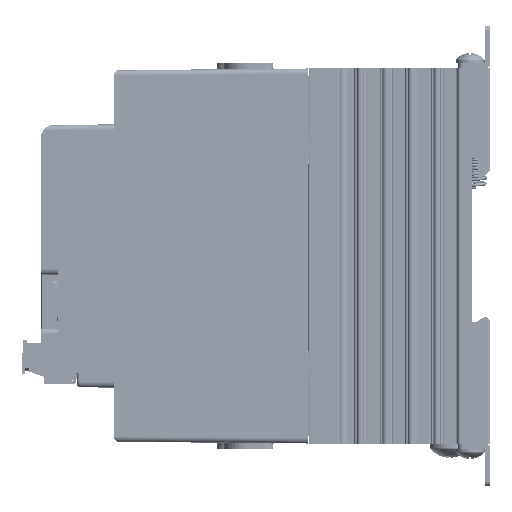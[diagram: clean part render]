
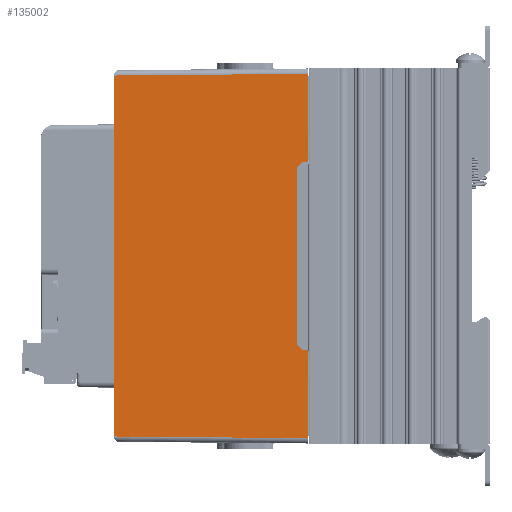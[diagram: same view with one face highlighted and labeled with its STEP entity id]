
A CAD part, left-side view. The second image highlights one B-rep face of the part: STEP entity #135002.
In plain terms, the highlighted planar face has unit normal (-1, 0.009, 0) as drawn and (1, 0, 0.009) by its records, which use the part's own axes.
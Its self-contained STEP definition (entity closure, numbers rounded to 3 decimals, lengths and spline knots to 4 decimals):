
#13829=FACE_OUTER_BOUND('',#21135,.T.);
#21135=EDGE_LOOP('',(#120024,#120025,#120026,#120027,#120028,#120029,#120030,
#120031,#120032,#120033));
#36152=LINE('',#231252,#51720);
#36282=LINE('',#232037,#51850);
#36288=LINE('',#232049,#51856);
#36292=LINE('',#232055,#51860);
#36294=LINE('',#232059,#51862);
#36296=LINE('',#232063,#51864);
#36297=LINE('',#232066,#51865);
#36642=LINE('',#232824,#52210);
#36644=LINE('',#232830,#52212);
#36645=LINE('',#232831,#52213);
#51720=VECTOR('',#177067,0.3937);
#51850=VECTOR('',#177443,0.3937);
#51856=VECTOR('',#177453,0.3937);
#51860=VECTOR('',#177461,0.3937);
#51862=VECTOR('',#177465,0.3937);
#51864=VECTOR('',#177469,0.3937);
#51865=VECTOR('',#177472,0.3937);
#52210=VECTOR('',#178197,0.3937);
#52212=VECTOR('',#178205,0.3937);
#52213=VECTOR('',#178206,0.3937);
#64344=VERTEX_POINT('',#231249);
#64345=VERTEX_POINT('',#231251);
#64448=VERTEX_POINT('',#232034);
#64449=VERTEX_POINT('',#232036);
#64452=VERTEX_POINT('',#232046);
#64453=VERTEX_POINT('',#232048);
#64454=VERTEX_POINT('',#232057);
#64455=VERTEX_POINT('',#232061);
#64456=VERTEX_POINT('',#232065);
#64656=VERTEX_POINT('',#232829);
#82747=EDGE_CURVE('',#64345,#64344,#36152,.T.);
#82935=EDGE_CURVE('',#64449,#64448,#36282,.T.);
#82941=EDGE_CURVE('',#64453,#64452,#36288,.T.);
#82945=EDGE_CURVE('',#64448,#64453,#36292,.T.);
#82947=EDGE_CURVE('',#64452,#64454,#36294,.T.);
#82949=EDGE_CURVE('',#64454,#64455,#36296,.T.);
#82950=EDGE_CURVE('',#64456,#64449,#36297,.T.);
#83316=EDGE_CURVE('',#64456,#64344,#36642,.T.);
#83319=EDGE_CURVE('',#64455,#64656,#36644,.T.);
#83320=EDGE_CURVE('',#64345,#64656,#36645,.T.);
#120024=ORIENTED_EDGE('',*,*,#82949,.T.);
#120025=ORIENTED_EDGE('',*,*,#83319,.T.);
#120026=ORIENTED_EDGE('',*,*,#83320,.F.);
#120027=ORIENTED_EDGE('',*,*,#82747,.T.);
#120028=ORIENTED_EDGE('',*,*,#83316,.F.);
#120029=ORIENTED_EDGE('',*,*,#82950,.T.);
#120030=ORIENTED_EDGE('',*,*,#82935,.T.);
#120031=ORIENTED_EDGE('',*,*,#82945,.T.);
#120032=ORIENTED_EDGE('',*,*,#82941,.T.);
#120033=ORIENTED_EDGE('',*,*,#82947,.T.);
#128351=PLANE('',#144938);
#135002=ADVANCED_FACE('',(#13829),#128351,.T.);
#144938=AXIS2_PLACEMENT_3D('',#232828,#178203,#178204);
#177067=DIRECTION('',(0.,-1.,0.));
#177443=DIRECTION('',(-0.009,0.009,1.));
#177453=DIRECTION('',(0.,1.,0.));
#177461=DIRECTION('',(-0.006,0.71,0.704));
#177465=DIRECTION('',(0.006,0.71,-0.704));
#177469=DIRECTION('',(0.009,0.009,-1.));
#177472=DIRECTION('',(0.,1.,0.));
#178197=DIRECTION('',(-0.009,0.009,1.));
#178203=DIRECTION('center_axis',(1.,0.,
0.009));
#178204=DIRECTION('ref_axis',(0.,1.,0.));
#178205=DIRECTION('',(0.,1.,0.));
#178206=DIRECTION('',(0.009,0.009,-1.));
#231249=CARTESIAN_POINT('',(1.3842,0.0658,1.811));
#231251=CARTESIAN_POINT('',(1.3842,3.4342,1.811));
#231252=CARTESIAN_POINT('',(1.3842,0.,1.811));
#232034=CARTESIAN_POINT('',(1.3995,0.8705,0.0521));
#232036=CARTESIAN_POINT('',(1.4,0.87,0.));
#232037=CARTESIAN_POINT('',(1.3996,0.8704,0.0436));
#232046=CARTESIAN_POINT('',(1.3991,2.5762,0.105));
#232048=CARTESIAN_POINT('',(1.3991,0.9238,0.105));
#232049=CARTESIAN_POINT('',(1.3991,3.0381,0.105));
#232055=CARTESIAN_POINT('',(1.3937,1.5503,0.726));
#232057=CARTESIAN_POINT('',(1.3995,2.6295,0.0521));
#232059=CARTESIAN_POINT('',(1.4015,2.859,-0.1754));
#232061=CARTESIAN_POINT('',(1.4,2.63,0.));
#232063=CARTESIAN_POINT('',(1.4,2.63,0.0023));
#232065=CARTESIAN_POINT('',(1.4,0.05,0.));
#232066=CARTESIAN_POINT('',(1.4,0.,0.));
#232824=CARTESIAN_POINT('',(1.3999,0.0501,0.0148));
#232828=CARTESIAN_POINT('Origin',(1.4,3.5,0.));
#232829=CARTESIAN_POINT('',(1.4,3.45,0.));
#232830=CARTESIAN_POINT('',(1.4,0.,0.));
#232831=CARTESIAN_POINT('',(1.4,3.45,0.0057));
